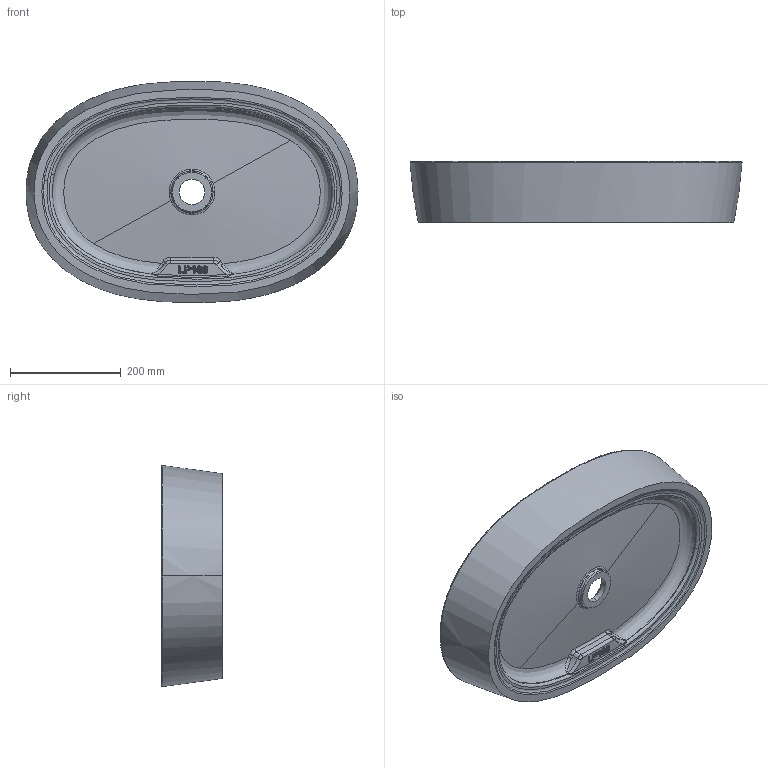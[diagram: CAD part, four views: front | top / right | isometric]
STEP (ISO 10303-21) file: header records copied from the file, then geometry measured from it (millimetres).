
FILE_DESCRIPTION (( 'STEP AP203' ), '1' );
FILE_NAME ('LP060.STEP', '2021-09-10T11:50:39', ( '' ), ( '' ), 'SwSTEP 2.0', 'SolidWorks 2020', '' );
FILE_SCHEMA (( 'CONFIG_CONTROL_DESIGN' ));
Length unit declared in the file: millimetre
Products named in the file (1): LP060
Bounding box: 599.72 x 110 x 399.46 mm (x, y, z)
Volume: 4604892.7 mm3; surface area: 645317 mm2
Topology: 1 solids, 1 shells, 307 faces, 706 edges, 389 vertices
Faces by surface type: bspline 148, cylinder 67, plane 33, torus 29, sphere 22, cone 8
Entity records: 35012 total; most frequent: CARTESIAN_POINT 29176, ORIENTED_EDGE 1368, DIRECTION 931, EDGE_CURVE 684, VERTEX_POINT 389, AXIS2_PLACEMENT_3D 382, EDGE_LOOP 319, ADVANCED_FACE 307
